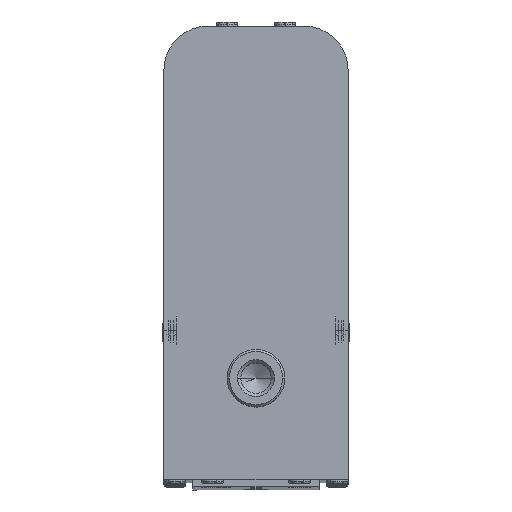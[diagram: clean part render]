
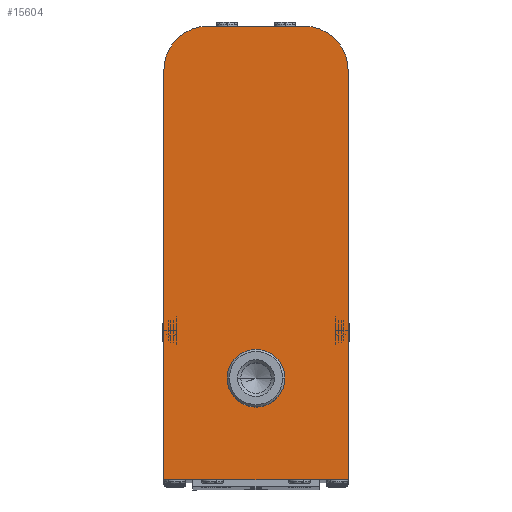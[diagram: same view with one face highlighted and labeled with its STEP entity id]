
A CAD part, top view. The second image highlights one B-rep face of the part: STEP entity #15604.
In plain terms, the highlighted planar face has unit normal (0, 0, 1).
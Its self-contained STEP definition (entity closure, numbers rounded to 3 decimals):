
#241 = DIRECTION ( 'NONE',  ( 1., 0., 0. ) ) ;
#488 = VECTOR ( 'NONE', #54419, 1000. ) ;
#1671 = ORIENTED_EDGE ( 'NONE', *, *, #30939, .T. ) ;
#1746 = AXIS2_PLACEMENT_3D ( 'NONE', #54355, #3408, #51013 ) ;
#3408 = DIRECTION ( 'NONE',  ( 0., 0., 1. ) ) ;
#3818 = EDGE_LOOP ( 'NONE', ( #7515, #50658, #27599, #10175, #24832, #1671 ) ) ;
#3938 = EDGE_CURVE ( 'NONE', #12919, #4606, #14679, .T. ) ;
#4385 = DIRECTION ( 'NONE',  ( 1., 0., 0. ) ) ;
#4562 = LINE ( 'NONE', #5112, #25586 ) ;
#4606 = VERTEX_POINT ( 'NONE', #10379 ) ;
#4903 = CARTESIAN_POINT ( 'NONE',  ( -12.7, -24.4, 0. ) ) ;
#4984 = VERTEX_POINT ( 'NONE', #4903 ) ;
#5112 = CARTESIAN_POINT ( 'NONE',  ( -8.7, -24.4, 0. ) ) ;
#5549 = CARTESIAN_POINT ( 'NONE',  ( 12.7, 38.1, 0. ) ) ;
#6606 = PLANE ( 'NONE',  #43116 ) ;
#6638 = VERTEX_POINT ( 'NONE', #16181 ) ;
#7156 = DIRECTION ( 'NONE',  ( 1., 0., 0. ) ) ;
#7515 = ORIENTED_EDGE ( 'NONE', *, *, #12039, .T. ) ;
#8473 = ORIENTED_EDGE ( 'NONE', *, *, #17998, .F. ) ;
#8921 = EDGE_CURVE ( 'NONE', #4606, #4984, #4562, .T. ) ;
#10175 = ORIENTED_EDGE ( 'NONE', *, *, #25802, .T. ) ;
#10379 = CARTESIAN_POINT ( 'NONE',  ( 12.7, -24.4, 0. ) ) ;
#10963 = DIRECTION ( 'NONE',  ( 0., 0., 1. ) ) ;
#12039 = EDGE_CURVE ( 'NONE', #52247, #4984, #16800, .T. ) ;
#12919 = VERTEX_POINT ( 'NONE', #41164 ) ;
#13465 = ORIENTED_EDGE ( 'NONE', *, *, #19895, .F. ) ;
#14679 = LINE ( 'NONE', #5549, #54420 ) ;
#14855 = DIRECTION ( 'NONE',  ( 1., 0., 0. ) ) ;
#15604 = ADVANCED_FACE ( 'NONE', ( #36243, #48684 ), #6606, .T. ) ;
#16027 = CARTESIAN_POINT ( 'NONE',  ( 0., 0., 0. ) ) ;
#16181 = CARTESIAN_POINT ( 'NONE',  ( -6.7, 38.1, 0. ) ) ;
#16683 = LINE ( 'NONE', #42385, #53698 ) ;
#16800 = LINE ( 'NONE', #37274, #488 ) ;
#17027 = AXIS2_PLACEMENT_3D ( 'NONE', #44444, #10963, #14855 ) ;
#17222 = DIRECTION ( 'NONE',  ( -1., 0., 0. ) ) ;
#17998 = EDGE_CURVE ( 'NONE', #50739, #21279, #53958, .T. ) ;
#19895 = EDGE_CURVE ( 'NONE', #21279, #50739, #46163, .T. ) ;
#20032 = CIRCLE ( 'NONE', #45673, 6. ) ;
#20907 = DIRECTION ( 'NONE',  ( -1., 0., 0. ) ) ;
#21279 = VERTEX_POINT ( 'NONE', #34176 ) ;
#23688 = CARTESIAN_POINT ( 'NONE',  ( 6.7, 38.1, 0. ) ) ;
#24832 = ORIENTED_EDGE ( 'NONE', *, *, #48457, .T. ) ;
#25586 = VECTOR ( 'NONE', #20907, 1000. ) ;
#25730 = CARTESIAN_POINT ( 'NONE',  ( -6.7, 32.1, 0. ) ) ;
#25802 = EDGE_CURVE ( 'NONE', #12919, #47799, #26543, .T. ) ;
#26543 = CIRCLE ( 'NONE', #54808, 6. ) ;
#27599 = ORIENTED_EDGE ( 'NONE', *, *, #3938, .F. ) ;
#30939 = EDGE_CURVE ( 'NONE', #6638, #52247, #20032, .T. ) ;
#31564 = DIRECTION ( 'NONE',  ( 0., -1., 0. ) ) ;
#34176 = CARTESIAN_POINT ( 'NONE',  ( 3.969, -10.446, 0. ) ) ;
#34612 = CARTESIAN_POINT ( 'NONE',  ( 6.7, 32.1, 0. ) ) ;
#36243 = FACE_OUTER_BOUND ( 'NONE', #3818, .T. ) ;
#37274 = CARTESIAN_POINT ( 'NONE',  ( -12.7, 38.1, 0. ) ) ;
#38220 = DIRECTION ( 'NONE',  ( 0., 0., 1. ) ) ;
#41164 = CARTESIAN_POINT ( 'NONE',  ( 12.7, 32.1, 0. ) ) ;
#42385 = CARTESIAN_POINT ( 'NONE',  ( 12.7, 38.1, 0. ) ) ;
#43116 = AXIS2_PLACEMENT_3D ( 'NONE', #16027, #45075, #7156 ) ;
#44444 = CARTESIAN_POINT ( 'NONE',  ( 0., -10.446, 0. ) ) ;
#45075 = DIRECTION ( 'NONE',  ( 0., 0., 1. ) ) ;
#45673 = AXIS2_PLACEMENT_3D ( 'NONE', #25730, #46757, #4385 ) ;
#46163 = CIRCLE ( 'NONE', #17027, 3.969 ) ;
#46757 = DIRECTION ( 'NONE',  ( 0., 0., 1. ) ) ;
#46820 = EDGE_LOOP ( 'NONE', ( #8473, #13465 ) ) ;
#46833 = CARTESIAN_POINT ( 'NONE',  ( -12.7, 32.1, 0. ) ) ;
#47799 = VERTEX_POINT ( 'NONE', #23688 ) ;
#48457 = EDGE_CURVE ( 'NONE', #47799, #6638, #16683, .T. ) ;
#48684 = FACE_BOUND ( 'NONE', #46820, .T. ) ;
#50658 = ORIENTED_EDGE ( 'NONE', *, *, #8921, .F. ) ;
#50739 = VERTEX_POINT ( 'NONE', #50954 ) ;
#50954 = CARTESIAN_POINT ( 'NONE',  ( -3.969, -10.446, 0. ) ) ;
#51013 = DIRECTION ( 'NONE',  ( 1., 0., 0. ) ) ;
#52247 = VERTEX_POINT ( 'NONE', #46833 ) ;
#53698 = VECTOR ( 'NONE', #17222, 1000. ) ;
#53958 = CIRCLE ( 'NONE', #1746, 3.969 ) ;
#54355 = CARTESIAN_POINT ( 'NONE',  ( 0., -10.446, 0. ) ) ;
#54420 = VECTOR ( 'NONE', #31564, 1000. ) ;
#54419 = DIRECTION ( 'NONE',  ( 0., -1., 0. ) ) ;
#54808 = AXIS2_PLACEMENT_3D ( 'NONE', #34612, #38220, #241 ) ;
